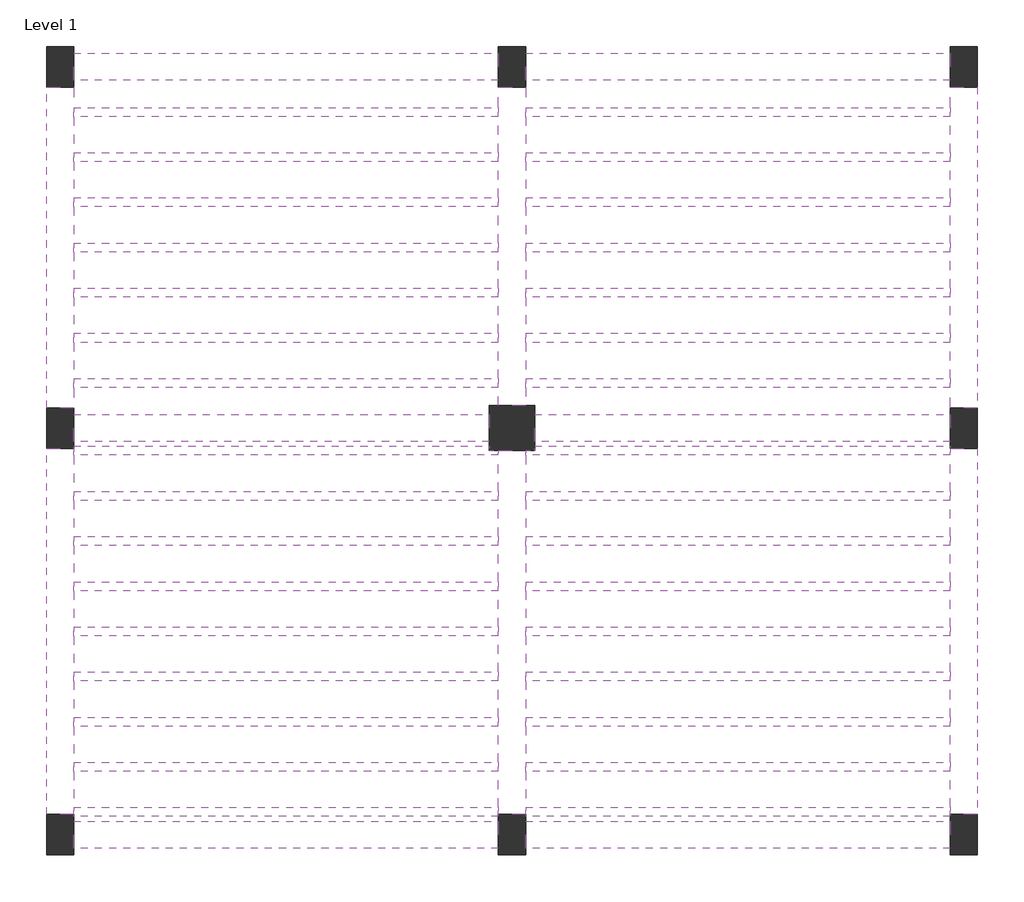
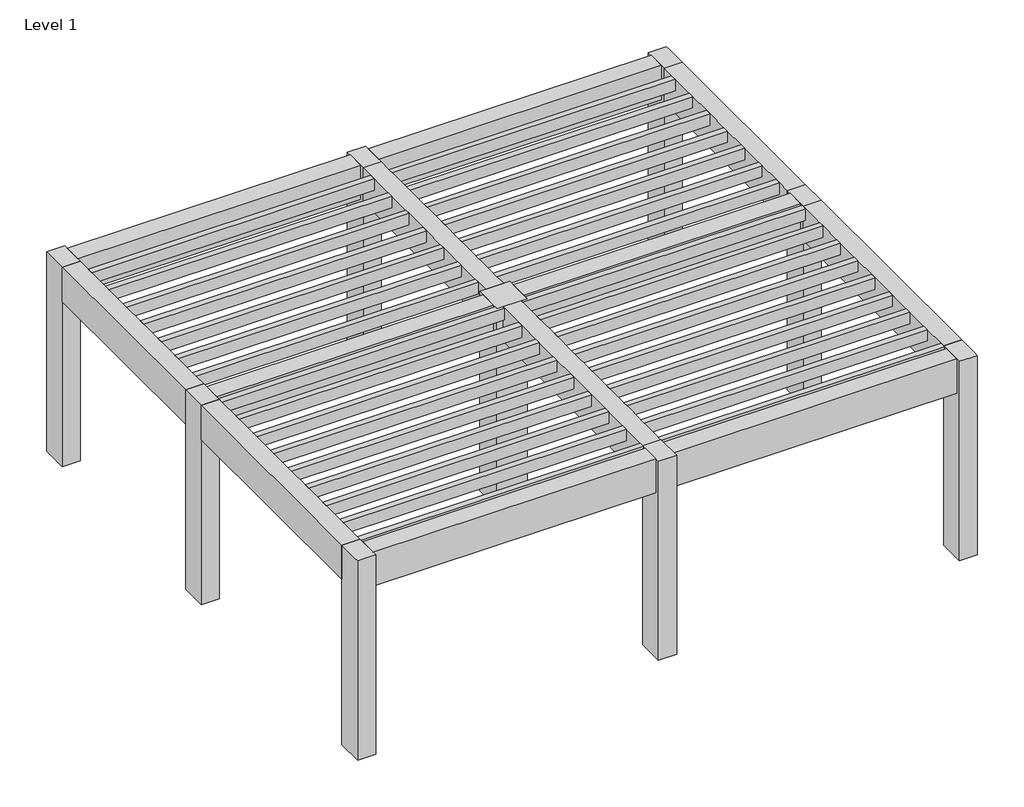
# One storey: 44 beams, 9 columns.
"""IFC4 building model written with IfcOpenShell, lengths in millimetres."""

import ifcopenshell
import ifcopenshell.guid

model = None  # the IFC model being written
_history = None  # IfcOwnerHistory: only IFC2X3 demands one
_inside = {}  # id of a spatial element -> (the spatial element, [elements in it])
_under = {}  # id of a project, library or spatial element -> (it, [spatial elements below it])
_declared = {}  # id of a project -> (the project, [libraries it declares])
_typed = {}  # id of a type object -> (the type object, [elements of that type])
_made_of = {}  # id of a material, layer set ... -> (it, [elements and type objects made of it])


def new_model(schema):
    """Start an empty IFC model of exactly this schema.

    Asked for "IFC4X3", IfcOpenShell would pick the latest addendum, in which some entities
    have other attributes; the version numbers below select the first issue.
    IFC2X3 requires an IfcOwnerHistory on every rooted entity: one is made here for all.
    """
    global model, _history
    if schema == "IFC4X3":
        model = ifcopenshell.file(schema_version=(4, 3, 0, 0))
    else:
        model = ifcopenshell.file(schema=schema)
    _inside.clear()
    _under.clear()
    _declared.clear()
    _typed.clear()
    _made_of.clear()
    _history = None
    if model.schema == "IFC2X3":
        org = make("IfcOrganization", Name="unknown")
        user = make(
            "IfcPersonAndOrganization",
            ThePerson=make("IfcPerson", FamilyName="unknown"),
            TheOrganization=org,
        )
        app = make(
            "IfcApplication",
            ApplicationDeveloper=org,
            Version="unknown",
            ApplicationFullName="unknown",
            ApplicationIdentifier="unknown",
        )
        _history = make(
            "IfcOwnerHistory",
            OwningUser=user,
            OwningApplication=app,
            ChangeAction="ADDED",
            CreationDate=0,
        )
    return model


def make(cls, **values):
    """One entity of the class cls with the attributes given. An attribute that is None is left unset."""
    return model.create_entity(
        cls, **{name: value for name, value in values.items() if value is not None}
    )


def rooted(cls, **values):
    """An entity with a GlobalId (a new one), such as an element, a storey or a relation."""
    return make(cls, GlobalId=ifcopenshell.guid.new(), OwnerHistory=_history, **values)


def si_unit(unit_type, name, prefix=None):
    """IfcSIUnit, for example si_unit("LENGTHUNIT", "METRE", prefix="MILLI")."""
    return make("IfcSIUnit", UnitType=unit_type, Prefix=prefix, Name=name)


def assignment(units):
    """IfcUnitAssignment: the units of a project."""
    return None if units is None else make("IfcUnitAssignment", Units=units)


def point(xyz):
    """IfcCartesianPoint."""
    return None if xyz is None else make("IfcCartesianPoint", Coordinates=xyz)


def direction(xyz):
    """IfcDirection."""
    return None if xyz is None else make("IfcDirection", DirectionRatios=xyz)


def frame(location, z_axis=None, x_axis=None):
    """IfcAxis2Placement3D, a coordinate frame: its origin and axes. An axis left out is left unset."""
    return make(
        "IfcAxis2Placement3D",
        Location=point(location),
        Axis=direction(z_axis),
        RefDirection=direction(x_axis),
    )


def origin():
    """The frame at (0, 0, 0) with its axes left unset."""
    return frame((0.0, 0.0, 0.0))


def origin_with_axes():
    """The frame at (0, 0, 0) with the z axis (0, 0, 1) and the x axis (1, 0, 0) written out."""
    return frame((0.0, 0.0, 0.0), z_axis=(0.0, 0.0, 1.0), x_axis=(1.0, 0.0, 0.0))


def place(relative_to, where):
    """IfcLocalPlacement: puts the frame where relative to a parent placement (None: the world)."""
    return make(
        "IfcLocalPlacement", PlacementRelTo=relative_to, RelativePlacement=where
    )


def context(
    kind, dimensions, precision=None, world=None, true_north=None, identifier=None
):
    """IfcGeometricRepresentationContext, for example the 3D "Model" context."""
    return make(
        "IfcGeometricRepresentationContext",
        ContextIdentifier=identifier,
        ContextType=kind,
        CoordinateSpaceDimension=dimensions,
        Precision=precision,
        WorldCoordinateSystem=world,
        TrueNorth=true_north,
    )


def project(units=None, contexts=None):
    """IfcProject with its units and contexts."""
    return rooted(
        "IfcProject",
        Name="project",
        RepresentationContexts=contexts,
        UnitsInContext=assignment(units),
    )


def spatial(cls, under=None, at=None, **own):
    """A site, building, storey or space (cls), placed at a placement, below another one or the project."""
    s = rooted(cls, ObjectPlacement=at, **own)
    if under is not None:
        _under.setdefault(under.id(), (under, []))[1].append(s)
    return s


def polyline(points):
    """IfcPolyline through the points."""
    return make("IfcPolyline", Points=[point(p) for p in points])


def outline(outer, holes=None, kind="AREA"):
    """IfcArbitraryClosedProfileDef: a profile drawn as a closed curve; with holes, ...WithVoids."""
    if holes is None:
        return make("IfcArbitraryClosedProfileDef", ProfileType=kind, OuterCurve=outer)
    return make(
        "IfcArbitraryProfileDefWithVoids",
        ProfileType=kind,
        OuterCurve=outer,
        InnerCurves=holes,
    )


def extrude(swept, where, along, depth):
    """IfcExtrudedAreaSolid: the profile swept, set in the frame where, extruded along a direction by depth."""
    return make(
        "IfcExtrudedAreaSolid",
        SweptArea=swept,
        Position=where,
        ExtrudedDirection=direction(along),
        Depth=depth,
    )


def faces_of(points, faces, orient=None, outer=None):
    """IfcFace entities. A face is a list of loops; a loop is a list of indices into points, from 0.

    orient and outer hold one flag for each loop. By default every Orientation is true, the
    first loop of a face is its IfcFaceOuterBound and the others are IfcFaceBound.
    """
    made = []
    for i, loops in enumerate(faces):
        bounds = []
        for j, loop in enumerate(loops):
            is_outer = j == 0 if outer is None else outer[i][j]
            bounds.append(
                make(
                    "IfcFaceOuterBound" if is_outer else "IfcFaceBound",
                    Bound=make("IfcPolyLoop", Polygon=[points[k] for k in loop]),
                    Orientation=True if orient is None else orient[i][j],
                )
            )
        made.append(make("IfcFace", Bounds=bounds))
    return made


def faceted_brep(points, faces, orient=None, outer=None, voids=None):
    """IfcFacetedBrep: a solid bounded by flat faces; with voids (closed shells), ...WithVoids."""
    shared = [point(p) for p in points]
    hull = make("IfcClosedShell", CfsFaces=faces_of(shared, faces, orient, outer))
    if voids is None:
        return make("IfcFacetedBrep", Outer=hull)
    return make(
        "IfcFacetedBrepWithVoids",
        Outer=hull,
        Voids=[
            make(cls, CfsFaces=faces_of(shared, fs, o, b)) for cls, fs, o, b in voids
        ],
    )


def shape(context_of_items, identifier, shape_type, items):
    """IfcShapeRepresentation: the items that make up one representation, for example the "Body"."""
    return make(
        "IfcShapeRepresentation",
        ContextOfItems=context_of_items,
        RepresentationIdentifier=identifier,
        RepresentationType=shape_type,
        Items=items,
    )


def made_of(thing, what):
    """Note that an element or type object is made of a material, layer set ...; save() writes the relation."""
    if what is not None:
        _made_of.setdefault(what.id(), (what, []))[1].append(thing)
    return thing


def element(
    cls,
    number,
    at=None,
    inside=None,
    cuts=None,
    type_object=None,
    material=None,
    context=None,
    identifier="Body",
    shape_type=None,
    held_by="IfcProductDefinitionShape",
    body=None,
    shapes=None,
    **own,
):
    """One element of the class cls, such as IfcWall. Its Tag is "e" and its number.

    at: its placement. inside: the storey or other place that contains it. cuts: it is an
    opening in that element (IfcRelVoidsElement). A single representation is given by context,
    identifier, shape_type and body (its items); several are given by shapes. held_by: the class
    of the entity that holds the representations. save() writes the other relations.
    """
    e = rooted(cls, Tag="e%d" % number, ObjectPlacement=at, **own)
    if body is not None:
        shapes = [shape(context, identifier, shape_type, body)]
    if shapes is not None:
        e.Representation = make(held_by, Representations=shapes)
    if inside is not None:
        _inside.setdefault(inside.id(), (inside, []))[1].append(e)
    if cuts is not None:
        rooted(
            "IfcRelVoidsElement", RelatingBuildingElement=cuts, RelatedOpeningElement=e
        )
    if type_object is not None:
        _typed.setdefault(type_object.id(), (type_object, []))[1].append(e)
    return made_of(e, material)


def aggregate(whole, parts):
    """IfcRelAggregates: a whole, such as a stair, and the parts it consists of."""
    return rooted("IfcRelAggregates", RelatingObject=whole, RelatedObjects=parts)


def save(model, path):
    """Write the relations noted so far, then the file.

    IfcRelAggregates (storeys below a building ...), IfcRelContainedInSpatialStructure (elements
    in a storey), IfcRelDefinesByType, IfcRelAssociatesMaterial and IfcRelDeclares: one each for
    every whole, place, type object, material and project.
    """
    for whole, parts in _under.values():
        aggregate(whole, parts)
    for where, things in _inside.values():
        rooted(
            "IfcRelContainedInSpatialStructure",
            RelatedElements=things,
            RelatingStructure=where,
        )
    for kind, things in _typed.values():
        rooted("IfcRelDefinesByType", RelatedObjects=things, RelatingType=kind)
    for what, things in _made_of.values():
        rooted("IfcRelAssociatesMaterial", RelatedObjects=things, RelatingMaterial=what)
    for by, libraries in _declared.values():
        rooted("IfcRelDeclares", RelatingContext=by, RelatedDefinitions=libraries)
    model.write(path)


model = new_model("IFC4")

# Units and contexts
model_context = context("Model", 3, world=origin())
ifc_project = project(units=[si_unit("LENGTHUNIT", "METRE", prefix="MILLI")], contexts=[model_context])

# Site, building, storey
site = spatial("IfcSite", under=ifc_project)
building = spatial("IfcBuilding", under=site)
storey = spatial("IfcBuildingStorey", under=building, Name="Level 1", Elevation=0.0)

# Beams
placement = place(None, origin())
element("IfcBeam", 1, ObjectType="M_Concrete-Rectangular Beam : 100 x 200 mm", at=placement, inside=storey, context=model_context, shape_type="SweptSolid", body=[
    extrude(outline(polyline([(-3220.3336126, -2471.7492634), (-3220.3336126, -2571.7492634), (-7920.3336126, -2571.7492634), (-7920.3336126, -2471.7492634), (-3220.3336126, -2471.7492634)])), frame((0.0, 0.0, 3300.0), z_axis=(0.0, 0.0, 1.0), x_axis=(1.0, 0.0, 0.0)), (0.0, 0.0, 1.0), 200.0),
])
element("IfcBeam", 2, ObjectType="M_Concrete-Rectangular Beam : 100 x 200 mm", at=placement, inside=storey, context=model_context, shape_type="SweptSolid", body=[
    extrude(outline(polyline([(-3220.3336126, -1971.7492634), (-3220.3336126, -2071.7492634), (-7920.3336126, -2071.7492634), (-7920.3336126, -1971.7492634), (-3220.3336126, -1971.7492634)])), frame((0.0, 0.0, 3300.0), z_axis=(0.0, 0.0, 1.0), x_axis=(1.0, 0.0, 0.0)), (0.0, 0.0, 1.0), 200.0),
])
element("IfcBeam", 3, ObjectType="M_Concrete-Rectangular Beam : 100 x 200 mm", at=placement, inside=storey, context=model_context, shape_type="SweptSolid", body=[
    extrude(outline(polyline([(-3220.3336126, -1471.7492634), (-3220.3336126, -1571.7492634), (-7920.3336126, -1571.7492634), (-7920.3336126, -1471.7492634), (-3220.3336126, -1471.7492634)])), frame((0.0, 0.0, 3300.0), z_axis=(0.0, 0.0, 1.0), x_axis=(1.0, 0.0, 0.0)), (0.0, 0.0, 1.0), 200.0),
])
element("IfcBeam", 4, ObjectType="M_Concrete-Rectangular Beam : 100 x 200 mm", at=placement, inside=storey, context=model_context, shape_type="SweptSolid", body=[
    extrude(outline(polyline([(-3220.3336126, -971.7492634), (-3220.3336126, -1071.7492634), (-7920.3336126, -1071.7492634), (-7920.3336126, -971.7492634), (-3220.3336126, -971.7492634)])), frame((0.0, 0.0, 3300.0), z_axis=(0.0, 0.0, 1.0), x_axis=(1.0, 0.0, 0.0)), (0.0, 0.0, 1.0), 200.0),
])
element("IfcBeam", 5, ObjectType="M_Concrete-Rectangular Beam : 100 x 200 mm", at=placement, inside=storey, context=model_context, shape_type="SweptSolid", body=[
    extrude(outline(polyline([(-3220.3336126, -471.7492634), (-3220.3336126, -571.7492634), (-7920.3336126, -571.7492634), (-7920.3336126, -471.7492634), (-3220.3336126, -471.7492634)])), frame((0.0, 0.0, 3300.0), z_axis=(0.0, 0.0, 1.0), x_axis=(1.0, 0.0, 0.0)), (0.0, 0.0, 1.0), 200.0),
])
element("IfcBeam", 6, ObjectType="M_Concrete-Rectangular Beam : 100 x 200 mm", at=placement, inside=storey, context=model_context, shape_type="SweptSolid", body=[
    extrude(outline(polyline([(-3220.3336126, 28.2507366), (-3220.3336126, -71.7492634), (-7920.3336126, -71.7492634), (-7920.3336126, 28.2507366), (-3220.3336126, 28.2507366)])), frame((0.0, 0.0, 3300.0), z_axis=(0.0, 0.0, 1.0), x_axis=(1.0, 0.0, 0.0)), (0.0, 0.0, 1.0), 200.0),
])
element("IfcBeam", 7, ObjectType="M_Concrete-Rectangular Beam : 100 x 200 mm", at=placement, inside=storey, context=model_context, shape_type="SweptSolid", body=[
    extrude(outline(polyline([(-3220.3336126, 528.2507366), (-3220.3336126, 428.2507366), (-7920.3336126, 428.2507366), (-7920.3336126, 528.2507366), (-3220.3336126, 528.2507366)])), frame((0.0, 0.0, 3300.0), z_axis=(0.0, 0.0, 1.0), x_axis=(1.0, 0.0, 0.0)), (0.0, 0.0, 1.0), 200.0),
])
element("IfcBeam", 8, ObjectType="M_Concrete-Rectangular Beam : 100 x 200 mm", at=placement, inside=storey, context=model_context, shape_type="SweptSolid", body=[
    extrude(outline(polyline([(1779.6663874, -2471.7492634), (1779.6663874, -2571.7492634), (-2920.3336126, -2571.7492634), (-2920.3336126, -2471.7492634), (1779.6663874, -2471.7492634)])), frame((0.0, 0.0, 3300.0), z_axis=(0.0, 0.0, 1.0), x_axis=(1.0, 0.0, 0.0)), (0.0, 0.0, 1.0), 200.0),
])
element("IfcBeam", 9, ObjectType="M_Concrete-Rectangular Beam : 100 x 200 mm", at=placement, inside=storey, context=model_context, shape_type="SweptSolid", body=[
    extrude(outline(polyline([(1779.6663874, -1971.7492634), (1779.6663874, -2071.7492634), (-2920.3336126, -2071.7492634), (-2920.3336126, -1971.7492634), (1779.6663874, -1971.7492634)])), frame((0.0, 0.0, 3300.0), z_axis=(0.0, 0.0, 1.0), x_axis=(1.0, 0.0, 0.0)), (0.0, 0.0, 1.0), 200.0),
])
element("IfcBeam", 10, ObjectType="M_Concrete-Rectangular Beam : 100 x 200 mm", at=placement, inside=storey, context=model_context, shape_type="SweptSolid", body=[
    extrude(outline(polyline([(1779.6663874, -1471.7492634), (1779.6663874, -1571.7492634), (-2920.3336126, -1571.7492634), (-2920.3336126, -1471.7492634), (1779.6663874, -1471.7492634)])), frame((0.0, 0.0, 3300.0), z_axis=(0.0, 0.0, 1.0), x_axis=(1.0, 0.0, 0.0)), (0.0, 0.0, 1.0), 200.0),
])
element("IfcBeam", 11, ObjectType="M_Concrete-Rectangular Beam : 100 x 200 mm", at=placement, inside=storey, context=model_context, shape_type="SweptSolid", body=[
    extrude(outline(polyline([(1779.6663874, -971.7492634), (1779.6663874, -1071.7492634), (-2920.3336126, -1071.7492634), (-2920.3336126, -971.7492634), (1779.6663874, -971.7492634)])), frame((0.0, 0.0, 3300.0), z_axis=(0.0, 0.0, 1.0), x_axis=(1.0, 0.0, 0.0)), (0.0, 0.0, 1.0), 200.0),
])
element("IfcBeam", 12, ObjectType="M_Concrete-Rectangular Beam : 100 x 200 mm", at=placement, inside=storey, context=model_context, shape_type="SweptSolid", body=[
    extrude(outline(polyline([(1779.6663874, -471.7492634), (1779.6663874, -571.7492634), (-2920.3336126, -571.7492634), (-2920.3336126, -471.7492634), (1779.6663874, -471.7492634)])), frame((0.0, 0.0, 3300.0), z_axis=(0.0, 0.0, 1.0), x_axis=(1.0, 0.0, 0.0)), (0.0, 0.0, 1.0), 200.0),
])
element("IfcBeam", 13, ObjectType="M_Concrete-Rectangular Beam : 100 x 200 mm", at=placement, inside=storey, context=model_context, shape_type="SweptSolid", body=[
    extrude(outline(polyline([(1779.6663874, 28.2507366), (1779.6663874, -71.7492634), (-2920.3336126, -71.7492634), (-2920.3336126, 28.2507366), (1779.6663874, 28.2507366)])), frame((0.0, 0.0, 3300.0), z_axis=(0.0, 0.0, 1.0), x_axis=(1.0, 0.0, 0.0)), (0.0, 0.0, 1.0), 200.0),
])
element("IfcBeam", 14, ObjectType="M_Concrete-Rectangular Beam : 100 x 200 mm", at=placement, inside=storey, context=model_context, shape_type="SweptSolid", body=[
    extrude(outline(polyline([(1779.6663874, 528.2507366), (1779.6663874, 428.2507366), (-2920.3336126, 428.2507366), (-2920.3336126, 528.2507366), (1779.6663874, 528.2507366)])), frame((0.0, 0.0, 3300.0), z_axis=(0.0, 0.0, 1.0), x_axis=(1.0, 0.0, 0.0)), (0.0, 0.0, 1.0), 200.0),
])
element("IfcBeam", 15, ObjectType="M_Concrete-Rectangular Beam : 100 x 200 mm", at=placement, inside=storey, context=model_context, shape_type="Brep", body=[
    faceted_brep([(1779.6663874, -7321.7492634, 3500.0), (1779.6663874, -7296.7492634, 3500.0), (1779.6663874, -7221.7492634, 3500.0), (-2920.3336126, -7221.7492634, 3500.0), (-2920.3336126, -7296.7492634, 3500.0), (-2920.3336126, -7321.7492634, 3500.0), (1779.6663874, -7221.7492634, 3300.0), (-2920.3336126, -7221.7492634, 3300.0), (1779.6663874, -7321.7492634, 3300.0), (-2920.3336126, -7321.7492634, 3300.0)], [[[0, 1, 2, 3, 4, 5]], [[2, 6, 7, 3]], [[6, 8, 9, 7]], [[8, 0, 5, 9]], [[2, 1, 0, 8, 6]], [[5, 4, 3, 7, 9]]]),
])
element("IfcBeam", 16, ObjectType="M_Concrete-Rectangular Beam : 100 x 200 mm", at=placement, inside=storey, context=model_context, shape_type="SweptSolid", body=[
    extrude(outline(polyline([(1779.6663874, -6721.7492634), (1779.6663874, -6821.7492634), (-2920.3336126, -6821.7492634), (-2920.3336126, -6721.7492634), (1779.6663874, -6721.7492634)])), frame((0.0, 0.0, 3300.0), z_axis=(0.0, 0.0, 1.0), x_axis=(1.0, 0.0, 0.0)), (0.0, 0.0, 1.0), 200.0),
])
element("IfcBeam", 17, ObjectType="M_Concrete-Rectangular Beam : 100 x 200 mm", at=placement, inside=storey, context=model_context, shape_type="SweptSolid", body=[
    extrude(outline(polyline([(1779.6663874, -6221.7492634), (1779.6663874, -6321.7492634), (-2920.3336126, -6321.7492634), (-2920.3336126, -6221.7492634), (1779.6663874, -6221.7492634)])), frame((0.0, 0.0, 3300.0), z_axis=(0.0, 0.0, 1.0), x_axis=(1.0, 0.0, 0.0)), (0.0, 0.0, 1.0), 200.0),
])
element("IfcBeam", 18, ObjectType="M_Concrete-Rectangular Beam : 100 x 200 mm", at=placement, inside=storey, context=model_context, shape_type="SweptSolid", body=[
    extrude(outline(polyline([(1779.6663874, -5721.7492634), (1779.6663874, -5821.7492634), (-2920.3336126, -5821.7492634), (-2920.3336126, -5721.7492634), (1779.6663874, -5721.7492634)])), frame((0.0, 0.0, 3300.0), z_axis=(0.0, 0.0, 1.0), x_axis=(1.0, 0.0, 0.0)), (0.0, 0.0, 1.0), 200.0),
])
element("IfcBeam", 19, ObjectType="M_Concrete-Rectangular Beam : 100 x 200 mm", at=placement, inside=storey, context=model_context, shape_type="SweptSolid", body=[
    extrude(outline(polyline([(1779.6663874, -5221.7492634), (1779.6663874, -5321.7492634), (-2920.3336126, -5321.7492634), (-2920.3336126, -5221.7492634), (1779.6663874, -5221.7492634)])), frame((0.0, 0.0, 3300.0), z_axis=(0.0, 0.0, 1.0), x_axis=(1.0, 0.0, 0.0)), (0.0, 0.0, 1.0), 200.0),
])
element("IfcBeam", 20, ObjectType="M_Concrete-Rectangular Beam : 100 x 200 mm", at=placement, inside=storey, context=model_context, shape_type="SweptSolid", body=[
    extrude(outline(polyline([(1779.6663874, -4721.7492634), (1779.6663874, -4821.7492634), (-2920.3336126, -4821.7492634), (-2920.3336126, -4721.7492634), (1779.6663874, -4721.7492634)])), frame((0.0, 0.0, 3300.0), z_axis=(0.0, 0.0, 1.0), x_axis=(1.0, 0.0, 0.0)), (0.0, 0.0, 1.0), 200.0),
])
element("IfcBeam", 21, ObjectType="M_Concrete-Rectangular Beam : 100 x 200 mm", at=placement, inside=storey, context=model_context, shape_type="SweptSolid", body=[
    extrude(outline(polyline([(1779.6663874, -4221.7492634), (1779.6663874, -4321.7492634), (-2920.3336126, -4321.7492634), (-2920.3336126, -4221.7492634), (1779.6663874, -4221.7492634)])), frame((0.0, 0.0, 3300.0), z_axis=(0.0, 0.0, 1.0), x_axis=(1.0, 0.0, 0.0)), (0.0, 0.0, 1.0), 200.0),
])
element("IfcBeam", 22, ObjectType="M_Concrete-Rectangular Beam : 100 x 200 mm", at=placement, inside=storey, context=model_context, shape_type="SweptSolid", body=[
    extrude(outline(polyline([(1779.6663874, -3721.7492634), (1779.6663874, -3821.7492634), (-2920.3336126, -3821.7492634), (-2920.3336126, -3721.7492634), (1779.6663874, -3721.7492634)])), frame((0.0, 0.0, 3300.0), z_axis=(0.0, 0.0, 1.0), x_axis=(1.0, 0.0, 0.0)), (0.0, 0.0, 1.0), 200.0),
])
element("IfcBeam", 23, ObjectType="M_Concrete-Rectangular Beam : 100 x 200 mm", at=placement, inside=storey, context=model_context, shape_type="Brep", body=[
    faceted_brep([(1779.6663874, -3321.7492634, 3500.0), (1779.6663874, -3246.7492634, 3500.0), (1779.6663874, -3221.7492634, 3500.0), (-2820.3336126, -3221.7492634, 3500.0), (-2820.3336126, -3271.7492634, 3500.0), (-2920.3336126, -3271.7492634, 3500.0), (-2920.3336126, -3321.7492634, 3500.0), (1779.6663874, -3221.7492634, 3300.0), (-2820.3336126, -3221.7492634, 3300.0), (1779.6663874, -3321.7492634, 3300.0), (-2920.3336126, -3321.7492634, 3300.0), (-2920.3336126, -3271.7492634, 3300.0), (-2820.3336126, -3271.7492634, 3300.0)], [[[0, 1, 2, 3, 4, 5, 6]], [[2, 7, 8, 3]], [[7, 9, 10, 11, 12, 8]], [[9, 0, 6, 10]], [[2, 1, 0, 9, 7]], [[10, 6, 5, 11]], [[12, 4, 3, 8]], [[4, 12, 11, 5]]]),
])
element("IfcBeam", 24, ObjectType="M_Concrete-Rectangular Beam : 100 x 200 mm", at=placement, inside=storey, context=model_context, shape_type="Brep", body=[
    faceted_brep([(-3220.3336126, -7321.7492634, 3500.0), (-3220.3336126, -7296.7492634, 3500.0), (-3220.3336126, -7221.7492634, 3500.0), (-7920.3336126, -7221.7492634, 3500.0), (-7920.3336126, -7296.7492634, 3500.0), (-7920.3336126, -7321.7492634, 3500.0), (-3220.3336126, -7221.7492634, 3300.0), (-7920.3336126, -7221.7492634, 3300.0), (-3220.3336126, -7321.7492634, 3300.0), (-7920.3336126, -7321.7492634, 3300.0)], [[[0, 1, 2, 3, 4, 5]], [[2, 6, 7, 3]], [[6, 8, 9, 7]], [[8, 0, 5, 9]], [[2, 1, 0, 8, 6]], [[5, 4, 3, 7, 9]]]),
])
element("IfcBeam", 25, ObjectType="M_Concrete-Rectangular Beam : 100 x 200 mm", at=placement, inside=storey, context=model_context, shape_type="SweptSolid", body=[
    extrude(outline(polyline([(-3220.3336126, -6721.7492634), (-3220.3336126, -6821.7492634), (-7920.3336126, -6821.7492634), (-7920.3336126, -6721.7492634), (-3220.3336126, -6721.7492634)])), frame((0.0, 0.0, 3300.0), z_axis=(0.0, 0.0, 1.0), x_axis=(1.0, 0.0, 0.0)), (0.0, 0.0, 1.0), 200.0),
])
element("IfcBeam", 26, ObjectType="M_Concrete-Rectangular Beam : 100 x 200 mm", at=placement, inside=storey, context=model_context, shape_type="SweptSolid", body=[
    extrude(outline(polyline([(-3220.3336126, -6221.7492634), (-3220.3336126, -6321.7492634), (-7920.3336126, -6321.7492634), (-7920.3336126, -6221.7492634), (-3220.3336126, -6221.7492634)])), frame((0.0, 0.0, 3300.0), z_axis=(0.0, 0.0, 1.0), x_axis=(1.0, 0.0, 0.0)), (0.0, 0.0, 1.0), 200.0),
])
element("IfcBeam", 27, ObjectType="M_Concrete-Rectangular Beam : 100 x 200 mm", at=placement, inside=storey, context=model_context, shape_type="SweptSolid", body=[
    extrude(outline(polyline([(-3220.3336126, -5721.7492634), (-3220.3336126, -5821.7492634), (-7920.3336126, -5821.7492634), (-7920.3336126, -5721.7492634), (-3220.3336126, -5721.7492634)])), frame((0.0, 0.0, 3300.0), z_axis=(0.0, 0.0, 1.0), x_axis=(1.0, 0.0, 0.0)), (0.0, 0.0, 1.0), 200.0),
])
element("IfcBeam", 28, ObjectType="M_Concrete-Rectangular Beam : 100 x 200 mm", at=placement, inside=storey, context=model_context, shape_type="SweptSolid", body=[
    extrude(outline(polyline([(-3220.3336126, -5221.7492634), (-3220.3336126, -5321.7492634), (-7920.3336126, -5321.7492634), (-7920.3336126, -5221.7492634), (-3220.3336126, -5221.7492634)])), frame((0.0, 0.0, 3300.0), z_axis=(0.0, 0.0, 1.0), x_axis=(1.0, 0.0, 0.0)), (0.0, 0.0, 1.0), 200.0),
])
element("IfcBeam", 29, ObjectType="M_Concrete-Rectangular Beam : 100 x 200 mm", at=placement, inside=storey, context=model_context, shape_type="SweptSolid", body=[
    extrude(outline(polyline([(-3220.3336126, -4721.7492634), (-3220.3336126, -4821.7492634), (-7920.3336126, -4821.7492634), (-7920.3336126, -4721.7492634), (-3220.3336126, -4721.7492634)])), frame((0.0, 0.0, 3300.0), z_axis=(0.0, 0.0, 1.0), x_axis=(1.0, 0.0, 0.0)), (0.0, 0.0, 1.0), 200.0),
])
element("IfcBeam", 30, ObjectType="M_Concrete-Rectangular Beam : 100 x 200 mm", at=placement, inside=storey, context=model_context, shape_type="SweptSolid", body=[
    extrude(outline(polyline([(-3220.3336126, -4221.7492634), (-3220.3336126, -4321.7492634), (-7920.3336126, -4321.7492634), (-7920.3336126, -4221.7492634), (-3220.3336126, -4221.7492634)])), frame((0.0, 0.0, 3300.0), z_axis=(0.0, 0.0, 1.0), x_axis=(1.0, 0.0, 0.0)), (0.0, 0.0, 1.0), 200.0),
])
element("IfcBeam", 31, ObjectType="M_Concrete-Rectangular Beam : 100 x 200 mm", at=placement, inside=storey, context=model_context, shape_type="SweptSolid", body=[
    extrude(outline(polyline([(-3220.3336126, -3721.7492634), (-3220.3336126, -3821.7492634), (-7920.3336126, -3821.7492634), (-7920.3336126, -3721.7492634), (-3220.3336126, -3721.7492634)])), frame((0.0, 0.0, 3300.0), z_axis=(0.0, 0.0, 1.0), x_axis=(1.0, 0.0, 0.0)), (0.0, 0.0, 1.0), 200.0),
])
element("IfcBeam", 32, ObjectType="M_Concrete-Rectangular Beam : 100 x 200 mm", at=placement, inside=storey, context=model_context, shape_type="Brep", body=[
    faceted_brep([(-3220.3336126, -3321.7492634, 3500.0), (-3220.3336126, -3271.7492634, 3500.0), (-3320.3336126, -3271.7492634, 3500.0), (-3320.3336126, -3221.7492634, 3500.0), (-7920.3336126, -3221.7492634, 3500.0), (-7920.3336126, -3246.7492634, 3500.0), (-7920.3336126, -3321.7492634, 3500.0), (-3320.3336126, -3221.7492634, 3300.0), (-7920.3336126, -3221.7492634, 3300.0), (-3220.3336126, -3271.7492634, 3300.0), (-3220.3336126, -3321.7492634, 3300.0), (-7920.3336126, -3321.7492634, 3300.0), (-3320.3336126, -3271.7492634, 3300.0)], [[[0, 1, 2, 3, 4, 5, 6]], [[3, 7, 8, 4]], [[9, 10, 11, 8, 7, 12]], [[10, 0, 6, 11]], [[0, 10, 9, 1]], [[2, 12, 7, 3]], [[12, 2, 1, 9]], [[6, 5, 4, 8, 11]]]),
])
element("IfcBeam", 33, ObjectType="M_Concrete-Rectangular Beam : 300 x 600mm", at=placement, inside=storey, context=model_context, shape_type="Brep", body=[
    faceted_brep([(-8220.3336126, -7296.7492634, 3500.0), (-7920.3336126, -7296.7492634, 3500.0), (-7920.3336126, -7221.7492634, 3500.0), (-7920.3336126, -6821.7492634, 3500.0), (-7920.3336126, -6721.7492634, 3500.0), (-7920.3336126, -6321.7492634, 3500.0), (-7920.3336126, -6221.7492634, 3500.0), (-7920.3336126, -5821.7492634, 3500.0), (-7920.3336126, -5721.7492634, 3500.0), (-7920.3336126, -5321.7492634, 3500.0), (-7920.3336126, -5221.7492634, 3500.0), (-7920.3336126, -4821.7492634, 3500.0), (-7920.3336126, -4721.7492634, 3500.0), (-7920.3336126, -4321.7492634, 3500.0), (-7920.3336126, -4221.7492634, 3500.0), (-7920.3336126, -3821.7492634, 3500.0), (-7920.3336126, -3721.7492634, 3500.0), (-7920.3336126, -3321.7492634, 3500.0), (-7920.3336126, -3246.7492634, 3500.0), (-8220.3336126, -3246.7492634, 3500.0), (-7920.3336126, -7296.7492634, 2900.0), (-7920.3336126, -3246.7492634, 2900.0), (-8220.3336126, -7296.7492634, 2900.0), (-8220.3336126, -3246.7492634, 2900.0)], [[[0, 1, 2, 3, 4, 5, 6, 7, 8, 9, 10, 11, 12, 13, 14, 15, 16, 17, 18, 19]], [[1, 20, 21, 18, 17, 16, 15, 14, 13, 12, 11, 10, 9, 8, 7, 6, 5, 4, 3, 2]], [[20, 22, 23, 21]], [[22, 0, 19, 23]], [[1, 0, 22, 20]], [[19, 18, 21, 23]]]),
])
element("IfcBeam", 34, ObjectType="M_Concrete-Rectangular Beam : 300 x 600mm", at=placement, inside=storey, context=model_context, shape_type="Brep", body=[
    faceted_brep([(-8220.3336126, -2796.7492634, 3500.0), (-7920.3336126, -2796.7492634, 3500.0), (-7920.3336126, -2571.7492634, 3500.0), (-7920.3336126, -2471.7492634, 3500.0), (-7920.3336126, -2071.7492634, 3500.0), (-7920.3336126, -1971.7492634, 3500.0), (-7920.3336126, -1571.7492634, 3500.0), (-7920.3336126, -1471.7492634, 3500.0), (-7920.3336126, -1071.7492634, 3500.0), (-7920.3336126, -971.7492634, 3500.0), (-7920.3336126, -571.7492634, 3500.0), (-7920.3336126, -471.7492634, 3500.0), (-7920.3336126, -71.7492634, 3500.0), (-7920.3336126, 28.2507366, 3500.0), (-7920.3336126, 428.2507366, 3500.0), (-7920.3336126, 528.2507366, 3500.0), (-7920.3336126, 753.2507366, 3500.0), (-8220.3336126, 753.2507366, 3500.0), (-7920.3336126, -2796.7492634, 2900.0), (-7920.3336126, 753.2507366, 2900.0), (-8220.3336126, -2796.7492634, 2900.0), (-8220.3336126, 753.2507366, 2900.0)], [[[0, 1, 2, 3, 4, 5, 6, 7, 8, 9, 10, 11, 12, 13, 14, 15, 16, 17]], [[1, 18, 19, 16, 15, 14, 13, 12, 11, 10, 9, 8, 7, 6, 5, 4, 3, 2]], [[18, 20, 21, 19]], [[20, 0, 17, 21]], [[1, 0, 20, 18]], [[17, 16, 19, 21]]]),
])
element("IfcBeam", 35, ObjectType="M_Concrete-Rectangular Beam : 300 x 600mm", at=placement, inside=storey, context=model_context, shape_type="Brep", body=[
    faceted_brep([(-3220.3336126, -7296.7492634, 3500.0), (-2920.3336126, -7296.7492634, 3500.0), (-2920.3336126, -7221.7492634, 3500.0), (-2920.3336126, -6821.7492634, 3500.0), (-2920.3336126, -6721.7492634, 3500.0), (-2920.3336126, -6321.7492634, 3500.0), (-2920.3336126, -6221.7492634, 3500.0), (-2920.3336126, -5821.7492634, 3500.0), (-2920.3336126, -5721.7492634, 3500.0), (-2920.3336126, -5321.7492634, 3500.0), (-2920.3336126, -5221.7492634, 3500.0), (-2920.3336126, -4821.7492634, 3500.0), (-2920.3336126, -4721.7492634, 3500.0), (-2920.3336126, -4321.7492634, 3500.0), (-2920.3336126, -4221.7492634, 3500.0), (-2920.3336126, -3821.7492634, 3500.0), (-2920.3336126, -3721.7492634, 3500.0), (-2920.3336126, -3321.7492634, 3500.0), (-2920.3336126, -3271.7492634, 3500.0), (-3220.3336126, -3271.7492634, 3500.0), (-3220.3336126, -3321.7492634, 3500.0), (-3220.3336126, -3721.7492634, 3500.0), (-3220.3336126, -3821.7492634, 3500.0), (-3220.3336126, -4221.7492634, 3500.0), (-3220.3336126, -4321.7492634, 3500.0), (-3220.3336126, -4721.7492634, 3500.0), (-3220.3336126, -4821.7492634, 3500.0), (-3220.3336126, -5221.7492634, 3500.0), (-3220.3336126, -5321.7492634, 3500.0), (-3220.3336126, -5721.7492634, 3500.0), (-3220.3336126, -5821.7492634, 3500.0), (-3220.3336126, -6221.7492634, 3500.0), (-3220.3336126, -6321.7492634, 3500.0), (-3220.3336126, -6721.7492634, 3500.0), (-3220.3336126, -6821.7492634, 3500.0), (-3220.3336126, -7221.7492634, 3500.0), (-2920.3336126, -7296.7492634, 2900.0), (-2920.3336126, -3271.7492634, 2900.0), (-2920.3336126, -3271.7492634, 3300.0), (-3220.3336126, -7296.7492634, 2900.0), (-3220.3336126, -3271.7492634, 2900.0), (-3220.3336126, -3271.7492634, 3300.0)], [[[0, 1, 2, 3, 4, 5, 6, 7, 8, 9, 10, 11, 12, 13, 14, 15, 16, 17, 18, 19, 20, 21, 22, 23, 24, 25, 26, 27, 28, 29, 30, 31, 32, 33, 34, 35]], [[1, 36, 37, 38, 18, 17, 16, 15, 14, 13, 12, 11, 10, 9, 8, 7, 6, 5, 4, 3, 2]], [[36, 39, 40, 37]], [[39, 0, 35, 34, 33, 32, 31, 30, 29, 28, 27, 26, 25, 24, 23, 22, 21, 20, 19, 41, 40]], [[1, 0, 39, 36]], [[19, 18, 38, 37, 40, 41]]]),
])
element("IfcBeam", 36, ObjectType="M_Concrete-Rectangular Beam : 300 x 600mm", at=placement, inside=storey, context=model_context, shape_type="Brep", body=[
    faceted_brep([(-3220.3336126, -2771.7492634, 3500.0), (-2920.3336126, -2771.7492634, 3500.0), (-2920.3336126, -2571.7492634, 3500.0), (-2920.3336126, -2471.7492634, 3500.0), (-2920.3336126, -2071.7492634, 3500.0), (-2920.3336126, -1971.7492634, 3500.0), (-2920.3336126, -1571.7492634, 3500.0), (-2920.3336126, -1471.7492634, 3500.0), (-2920.3336126, -1071.7492634, 3500.0), (-2920.3336126, -971.7492634, 3500.0), (-2920.3336126, -571.7492634, 3500.0), (-2920.3336126, -471.7492634, 3500.0), (-2920.3336126, -71.7492634, 3500.0), (-2920.3336126, 28.2507366, 3500.0), (-2920.3336126, 428.2507366, 3500.0), (-2920.3336126, 528.2507366, 3500.0), (-2920.3336126, 753.2507366, 3500.0), (-3220.3336126, 753.2507366, 3500.0), (-3220.3336126, 528.2507366, 3500.0), (-3220.3336126, 428.2507366, 3500.0), (-3220.3336126, 28.2507366, 3500.0), (-3220.3336126, -71.7492634, 3500.0), (-3220.3336126, -471.7492634, 3500.0), (-3220.3336126, -571.7492634, 3500.0), (-3220.3336126, -971.7492634, 3500.0), (-3220.3336126, -1071.7492634, 3500.0), (-3220.3336126, -1471.7492634, 3500.0), (-3220.3336126, -1571.7492634, 3500.0), (-3220.3336126, -1971.7492634, 3500.0), (-3220.3336126, -2071.7492634, 3500.0), (-3220.3336126, -2471.7492634, 3500.0), (-3220.3336126, -2571.7492634, 3500.0), (-2920.3336126, -2771.7492634, 2900.0), (-2920.3336126, 753.2507366, 2900.0), (-3220.3336126, -2771.7492634, 2900.0), (-3220.3336126, 753.2507366, 2900.0)], [[[0, 1, 2, 3, 4, 5, 6, 7, 8, 9, 10, 11, 12, 13, 14, 15, 16, 17, 18, 19, 20, 21, 22, 23, 24, 25, 26, 27, 28, 29, 30, 31]], [[1, 32, 33, 16, 15, 14, 13, 12, 11, 10, 9, 8, 7, 6, 5, 4, 3, 2]], [[32, 34, 35, 33]], [[34, 0, 31, 30, 29, 28, 27, 26, 25, 24, 23, 22, 21, 20, 19, 18, 17, 35]], [[1, 0, 34, 32]], [[17, 16, 33, 35]]]),
])
element("IfcBeam", 37, ObjectType="M_Concrete-Rectangular Beam : 300 x 600mm", at=placement, inside=storey, context=model_context, shape_type="Brep", body=[
    faceted_brep([(1779.6663874, -7296.7492634, 3500.0), (2079.6663874, -7296.7492634, 3500.0), (2079.6663874, -3246.7492634, 3500.0), (1779.6663874, -3246.7492634, 3500.0), (1779.6663874, -3321.7492634, 3500.0), (1779.6663874, -3721.7492634, 3500.0), (1779.6663874, -3821.7492634, 3500.0), (1779.6663874, -4221.7492634, 3500.0), (1779.6663874, -4321.7492634, 3500.0), (1779.6663874, -4721.7492634, 3500.0), (1779.6663874, -4821.7492634, 3500.0), (1779.6663874, -5221.7492634, 3500.0), (1779.6663874, -5321.7492634, 3500.0), (1779.6663874, -5721.7492634, 3500.0), (1779.6663874, -5821.7492634, 3500.0), (1779.6663874, -6221.7492634, 3500.0), (1779.6663874, -6321.7492634, 3500.0), (1779.6663874, -6721.7492634, 3500.0), (1779.6663874, -6821.7492634, 3500.0), (1779.6663874, -7221.7492634, 3500.0), (2079.6663874, -7296.7492634, 2900.0), (2079.6663874, -3246.7492634, 2900.0), (1779.6663874, -7296.7492634, 2900.0), (1779.6663874, -3246.7492634, 2900.0)], [[[0, 1, 2, 3, 4, 5, 6, 7, 8, 9, 10, 11, 12, 13, 14, 15, 16, 17, 18, 19]], [[1, 20, 21, 2]], [[20, 22, 23, 21]], [[22, 0, 19, 18, 17, 16, 15, 14, 13, 12, 11, 10, 9, 8, 7, 6, 5, 4, 3, 23]], [[1, 0, 22, 20]], [[3, 2, 21, 23]]]),
])
element("IfcBeam", 38, ObjectType="M_Concrete-Rectangular Beam : 300 x 600mm", at=placement, inside=storey, context=model_context, shape_type="Brep", body=[
    faceted_brep([(1779.6663874, -2796.7492634, 3500.0), (2079.6663874, -2796.7492634, 3500.0), (2079.6663874, 753.2507366, 3500.0), (1779.6663874, 753.2507366, 3500.0), (1779.6663874, 528.2507366, 3500.0), (1779.6663874, 428.2507366, 3500.0), (1779.6663874, 28.2507366, 3500.0), (1779.6663874, -71.7492634, 3500.0), (1779.6663874, -471.7492634, 3500.0), (1779.6663874, -571.7492634, 3500.0), (1779.6663874, -971.7492634, 3500.0), (1779.6663874, -1071.7492634, 3500.0), (1779.6663874, -1471.7492634, 3500.0), (1779.6663874, -1571.7492634, 3500.0), (1779.6663874, -1971.7492634, 3500.0), (1779.6663874, -2071.7492634, 3500.0), (1779.6663874, -2471.7492634, 3500.0), (1779.6663874, -2571.7492634, 3500.0), (2079.6663874, -2796.7492634, 2900.0), (2079.6663874, 753.2507366, 2900.0), (1779.6663874, -2796.7492634, 2900.0), (1779.6663874, 753.2507366, 2900.0)], [[[0, 1, 2, 3, 4, 5, 6, 7, 8, 9, 10, 11, 12, 13, 14, 15, 16, 17]], [[1, 18, 19, 2]], [[18, 20, 21, 19]], [[20, 0, 17, 16, 15, 14, 13, 12, 11, 10, 9, 8, 7, 6, 5, 4, 3, 21]], [[1, 0, 20, 18]], [[3, 2, 19, 21]]]),
])
element("IfcBeam", 39, ObjectType="M_Concrete-Rectangular Beam : 300 x 600mm", at=placement, inside=storey, context=model_context, shape_type="SweptSolid", body=[
    extrude(outline(polyline([(-2920.3336126, -7671.7492634), (-2920.3336126, -7371.7492634), (1779.6663874, -7371.7492634), (1779.6663874, -7671.7492634), (-2920.3336126, -7671.7492634)])), frame((0.0, 0.0, 2900.0), z_axis=(0.0, 0.0, 1.0), x_axis=(1.0, 0.0, 0.0)), (0.0, 0.0, 1.0), 600.0),
])
element("IfcBeam", 40, ObjectType="M_Concrete-Rectangular Beam : 300 x 600mm", at=placement, inside=storey, context=model_context, shape_type="SweptSolid", body=[
    extrude(outline(polyline([(-7920.3336126, -7671.7492634), (-7920.3336126, -7371.7492634), (-3220.3336126, -7371.7492634), (-3220.3336126, -7671.7492634), (-7920.3336126, -7671.7492634)])), frame((0.0, 0.0, 2900.0), z_axis=(0.0, 0.0, 1.0), x_axis=(1.0, 0.0, 0.0)), (0.0, 0.0, 1.0), 600.0),
])
element("IfcBeam", 41, ObjectType="M_Concrete-Rectangular Beam : 300 x 600mm", at=placement, inside=storey, context=model_context, shape_type="SweptSolid", body=[
    extrude(outline(polyline([(-2820.3336126, -3171.7492634), (-2820.3336126, -2871.7492634), (1779.6663874, -2871.7492634), (1779.6663874, -3171.7492634), (-2820.3336126, -3171.7492634)])), frame((0.0, 0.0, 2900.0), z_axis=(0.0, 0.0, 1.0), x_axis=(1.0, 0.0, 0.0)), (0.0, 0.0, 1.0), 600.0),
])
element("IfcBeam", 42, ObjectType="M_Concrete-Rectangular Beam : 300 x 600mm", at=placement, inside=storey, context=model_context, shape_type="SweptSolid", body=[
    extrude(outline(polyline([(-7920.3336126, -3171.7492634), (-7920.3336126, -2871.7492634), (-3320.3336126, -2871.7492634), (-3320.3336126, -3171.7492634), (-7920.3336126, -3171.7492634)])), frame((0.0, 0.0, 2900.0), z_axis=(0.0, 0.0, 1.0), x_axis=(1.0, 0.0, 0.0)), (0.0, 0.0, 1.0), 600.0),
])
element("IfcBeam", 43, ObjectType="M_Concrete-Rectangular Beam : 300 x 600mm", at=placement, inside=storey, context=model_context, shape_type="SweptSolid", body=[
    extrude(outline(polyline([(-2920.3336126, 828.2507366), (-2920.3336126, 1128.2507366), (1779.6663874, 1128.2507366), (1779.6663874, 828.2507366), (-2920.3336126, 828.2507366)])), frame((0.0, 0.0, 2900.0), z_axis=(0.0, 0.0, 1.0), x_axis=(1.0, 0.0, 0.0)), (0.0, 0.0, 1.0), 600.0),
])
element("IfcBeam", 44, ObjectType="M_Concrete-Rectangular Beam : 300 x 600mm", at=placement, inside=storey, context=model_context, shape_type="SweptSolid", body=[
    extrude(outline(polyline([(-7920.3336126, 828.2507366), (-7920.3336126, 1128.2507366), (-3220.3336126, 1128.2507366), (-3220.3336126, 828.2507366), (-7920.3336126, 828.2507366)])), frame((0.0, 0.0, 2900.0), z_axis=(0.0, 0.0, 1.0), x_axis=(1.0, 0.0, 0.0)), (0.0, 0.0, 1.0), 600.0),
])

# Columns
element("IfcColumn", 45, ObjectType="M_Concrete-Rectangular-Column : 300 x 450mm", at=placement, inside=storey, context=model_context, shape_type="Brep", body=[
    faceted_brep([(-8220.3336126, -7746.7492634, 0.0), (-8220.3336126, -7296.7492634, 0.0), (-7920.3336126, -7296.7492634, 0.0), (-7920.3336126, -7746.7492634, 0.0), (-8220.3336126, -7746.7492634, 3500.0), (-8220.3336126, -7671.7492634, 3500.0), (-8220.3336126, -7296.7492634, 3500.0), (-7920.3336126, -7296.7492634, 3500.0), (-7920.3336126, -7746.7492634, 3500.0)], [[[0, 1, 2, 3]], [[4, 5, 6, 1, 0]], [[6, 7, 2, 1]], [[7, 8, 3, 2]], [[8, 4, 0, 3]], [[4, 8, 7, 6, 5]]]),
])
element("IfcColumn", 46, ObjectType="M_Concrete-Rectangular-Column : 300 x 450mm", at=placement, inside=storey, context=model_context, shape_type="SweptSolid", body=[
    extrude(outline(polyline([(-8220.3336126, -3246.7492634), (-8220.3336126, -2796.7492634), (-7920.3336126, -2796.7492634), (-7920.3336126, -3246.7492634), (-8220.3336126, -3246.7492634)])), origin_with_axes(), (0.0, 0.0, 1.0), 3500.0),
])
element("IfcColumn", 47, ObjectType="M_Concrete-Rectangular-Column : 300 x 450mm", at=placement, inside=storey, context=model_context, shape_type="Brep", body=[
    faceted_brep([(-8220.3336126, 753.2507366, 0.0), (-8220.3336126, 1203.2507366, 0.0), (-7920.3336126, 1203.2507366, 0.0), (-7920.3336126, 753.2507366, 0.0), (-8220.3336126, 753.2507366, 3500.0), (-8220.3336126, 1127.8962977, 3500.0), (-8220.3336126, 1203.2507366, 3500.0), (-7920.3336126, 1203.2507366, 3500.0), (-7920.3336126, 753.2507366, 3500.0)], [[[0, 1, 2, 3]], [[4, 5, 6, 1, 0]], [[6, 7, 2, 1]], [[7, 8, 3, 2]], [[8, 4, 0, 3]], [[4, 8, 7, 6, 5]]]),
])
element("IfcColumn", 48, ObjectType="M_Concrete-Rectangular-Column : 300 x 450mm", at=placement, inside=storey, context=model_context, shape_type="SweptSolid", body=[
    extrude(outline(polyline([(-3220.3336126, -7746.7492634), (-3220.3336126, -7296.7492634), (-2920.3336126, -7296.7492634), (-2920.3336126, -7746.7492634), (-3220.3336126, -7746.7492634)])), origin_with_axes(), (0.0, 0.0, 1.0), 3500.0),
])
element("IfcColumn", 49, ObjectType="M_Concrete-Rectangular-Column : 300 x 450mm", at=placement, inside=storey, context=model_context, shape_type="SweptSolid", body=[
    extrude(outline(polyline([(-3220.3336126, 753.2507366), (-3220.3336126, 1203.2507366), (-2920.3336126, 1203.2507366), (-2920.3336126, 753.2507366), (-3220.3336126, 753.2507366)])), origin_with_axes(), (0.0, 0.0, 1.0), 3500.0),
])
element("IfcColumn", 50, ObjectType="M_Concrete-Rectangular-Column : 300 x 450mm", at=placement, inside=storey, context=model_context, shape_type="Brep", body=[
    faceted_brep([(1779.6663874, -7746.7492634, 0.0), (1779.6663874, -7296.7492634, 0.0), (2079.6663874, -7296.7492634, 0.0), (2079.6663874, -7746.7492634, 0.0), (1779.6663874, -7746.7492634, 3500.0), (1779.6663874, -7296.7492634, 3500.0), (2079.6663874, -7296.7492634, 3500.0), (2079.6663874, -7671.7492634, 3500.0), (2079.6663874, -7746.7492634, 3500.0)], [[[0, 1, 2, 3]], [[4, 5, 1, 0]], [[5, 6, 2, 1]], [[6, 7, 8, 3, 2]], [[8, 4, 0, 3]], [[4, 8, 7, 6, 5]]]),
])
element("IfcColumn", 51, ObjectType="M_Concrete-Rectangular-Column : 300 x 450mm", at=placement, inside=storey, context=model_context, shape_type="SweptSolid", body=[
    extrude(outline(polyline([(1779.6663874, -3246.7492634), (1779.6663874, -2796.7492634), (2079.6663874, -2796.7492634), (2079.6663874, -3246.7492634), (1779.6663874, -3246.7492634)])), origin_with_axes(), (0.0, 0.0, 1.0), 3500.0),
])
element("IfcColumn", 52, ObjectType="M_Concrete-Rectangular-Column : 300 x 450mm", at=placement, inside=storey, context=model_context, shape_type="Brep", body=[
    faceted_brep([(1779.6663874, 753.2507366, 0.0), (1779.6663874, 1203.2507366, 0.0), (2079.6663874, 1203.2507366, 0.0), (2079.6663874, 753.2507366, 0.0), (1779.6663874, 753.2507366, 3500.0), (1779.6663874, 1203.2507366, 3500.0), (2079.6663874, 1203.2507366, 3500.0), (2079.6663874, 1127.8962977, 3500.0), (2079.6663874, 753.2507366, 3500.0)], [[[0, 1, 2, 3]], [[4, 5, 1, 0]], [[5, 6, 2, 1]], [[6, 7, 8, 3, 2]], [[8, 4, 0, 3]], [[4, 8, 7, 6, 5]]]),
])
element("IfcColumn", 53, ObjectType="M_Concrete-Rectangular-Column : 500 x 500mm", at=placement, inside=storey, context=model_context, shape_type="SweptSolid", body=[
    extrude(outline(polyline([(-3320.3336126, -3271.7492634), (-3320.3336126, -2771.7492634), (-2820.3336126, -2771.7492634), (-2820.3336126, -3271.7492634), (-3320.3336126, -3271.7492634)])), origin_with_axes(), (0.0, 0.0, 1.0), 3500.0),
])

save(model, "model.ifc")
